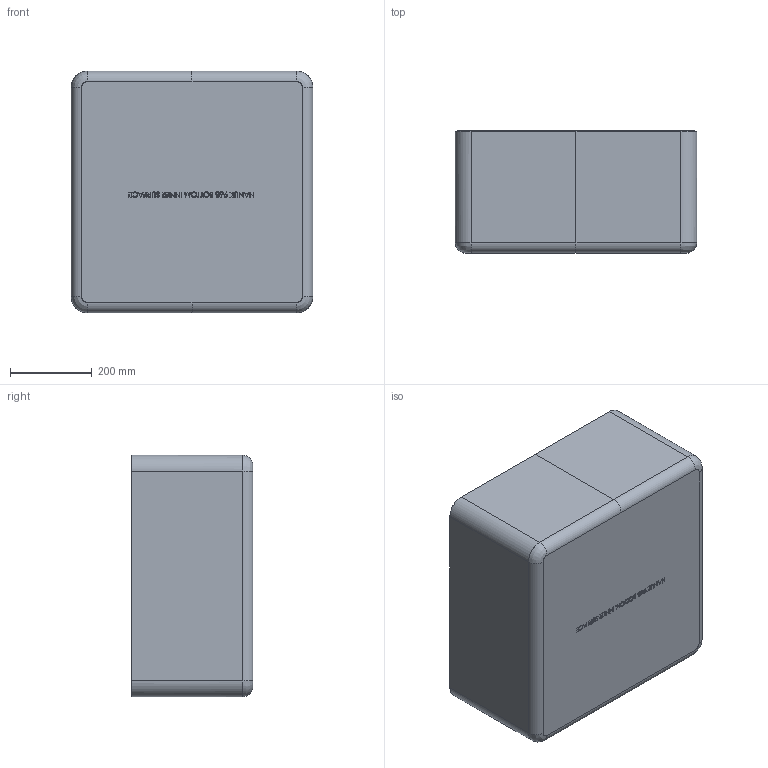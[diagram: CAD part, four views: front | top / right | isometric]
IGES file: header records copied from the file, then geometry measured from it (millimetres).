
Start section: SolidWorks IGES file using analytic representation for surfaces
Global section: file name: Z:\Share\NANUK\Solidworks\3D\Cases\968\4 - 3D FILES\4 - INNER SURFACES\968_Btm_INNER_SURFACE_IGES.IGS; native system: SolidWorks 2018; preprocessor: SolidWorks 2018; author: scharria; date: 200218.125231; units: inch
Bounding box: 589.56 x 297.69 x 589.56 mm (x, y, z)
Surface area: 1928273 mm2 (no closed solid volume)
Topology: 0 solids, 0 shells, 2153 faces, 22055 edges, 21925 vertices
Faces by surface type: bspline 1541, revolution 612
